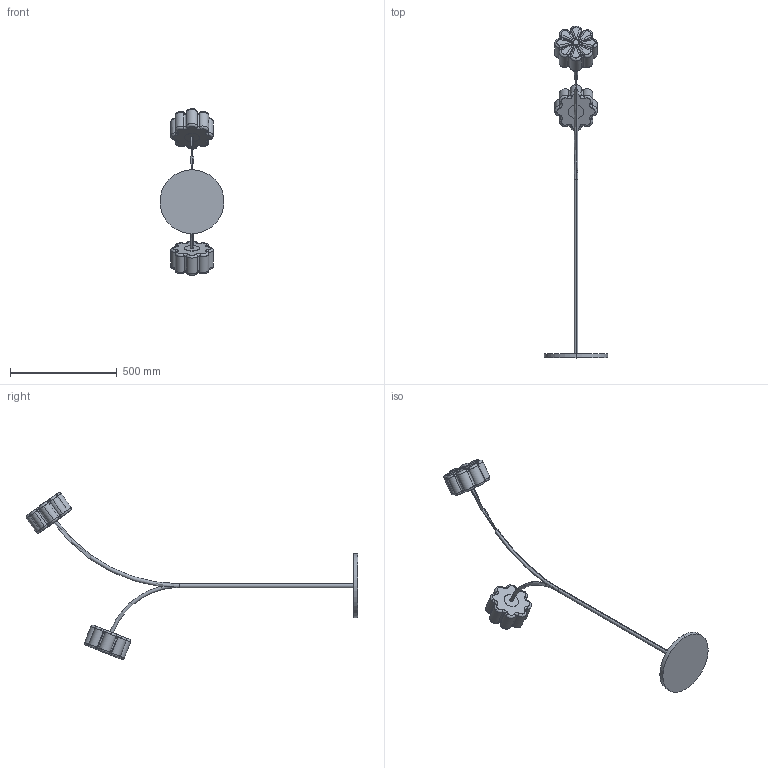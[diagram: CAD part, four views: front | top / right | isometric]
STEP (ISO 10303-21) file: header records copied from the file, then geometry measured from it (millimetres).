
FILE_DESCRIPTION (( 'STEP AP214' ), '1' );
FILE_NAME ('FLOW_P1339.STEP', '2024-10-22T10:19:39', ( '' ), ( '' ), 'SwSTEP 2.0', 'SolidWorks 2018', '' );
FILE_SCHEMA (( 'AUTOMOTIVE_DESIGN' ));
Length unit declared in the file: millimetre
Products named in the file (3): DEFITULIPA; FLOW_P1339; estructura pie
Assembly tree (3 placements, depth 2):
  FLOW_P1339
    estructura pie
    DEFITULIPA  x2
Bounding box: 300 x 1556.11 x 781.56 mm (x, y, z)
Volume: 7177093.7 mm3; surface area: 518321.4 mm2
Topology: 7 solids, 7 shells, 318 faces, 741 edges, 438 vertices
Faces by surface type: bspline 80, torus 68, cylinder 54, plane 48, sphere 36, cone 32
Entity records: 8057 total; most frequent: CARTESIAN_POINT 3806, ORIENTED_EDGE 764, DIRECTION 685, EDGE_CURVE 382, AXIS2_PLACEMENT_3D 320, VERTEX_POINT 226, CIRCLE 189, EDGE_LOOP 166
